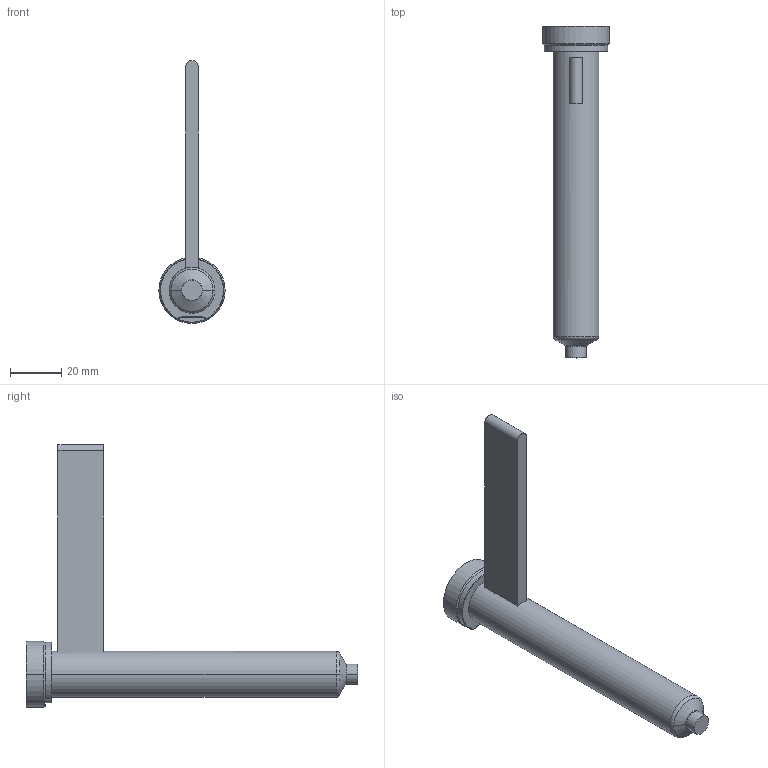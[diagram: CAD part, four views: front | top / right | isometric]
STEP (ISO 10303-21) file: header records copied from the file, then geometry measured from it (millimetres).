
FILE_DESCRIPTION((''),'2;1');
FILE_NAME('EO04_PG-FB_STD_120_COT','2024-02-19T11:22:00',('sundharh'),(''),'CREO PARAMETRIC BY PTC INC, 2023154','CREO PARAMETRIC BY PTC INC, 2023154','');
FILE_SCHEMA(('CONFIG_CONTROL_DESIGN'));
Length unit declared in the file: millimetre
Products named in the file (1): EO04_PG-FB_STD_120_COT
Bounding box: 26 x 130 x 103 mm (x, y, z)
Volume: 41650.2 mm3; surface area: 12031.7 mm2
Topology: 1 solids, 1 shells, 31 faces, 67 edges, 40 vertices
Faces by surface type: cylinder 11, plane 9, torus 7, cone 4
Entity records: 961 total; most frequent: CARTESIAN_POINT 228, DIRECTION 159, ORIENTED_EDGE 134, AXIS2_PLACEMENT_3D 67, EDGE_CURVE 67, VERTEX_POINT 40, CIRCLE 36, EDGE_LOOP 33
